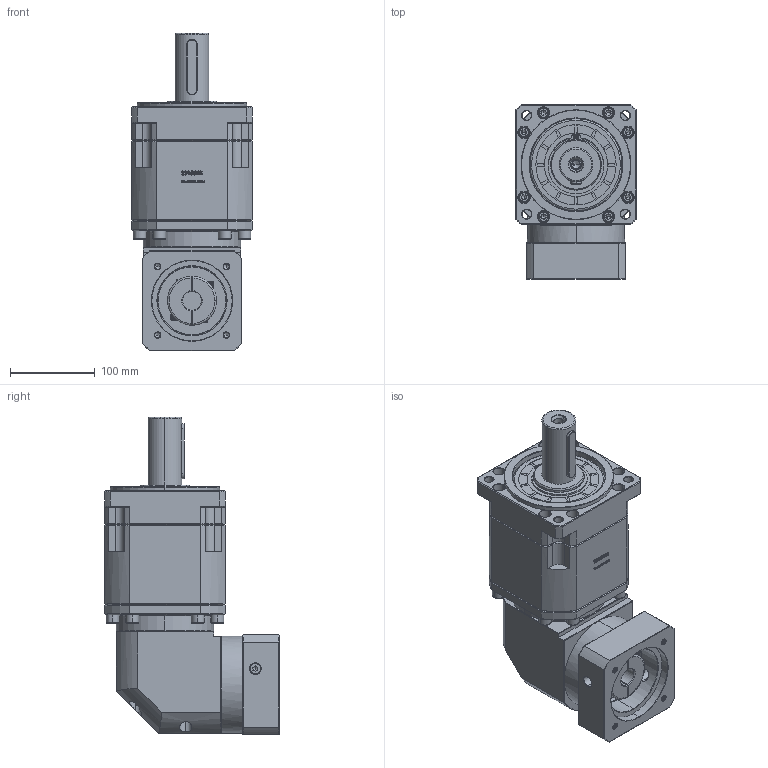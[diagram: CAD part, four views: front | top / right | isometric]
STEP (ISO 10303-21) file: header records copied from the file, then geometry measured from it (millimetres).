
FILE_DESCRIPTION (( 'STEP AP214' ), '1' );
FILE_NAME ('ZBR142A-D40-L3-22-95-115-M8.step', '2023-03-20T04:13:20', ( '' ), ( '' ), 'SwSTEP 2.0', 'SolidWorks 2016', '' );
FILE_SCHEMA (( 'AUTOMOTIVE_DESIGN' ));
Length unit declared in the file: millimetre
Products named in the file (1): ZBR142A-D40-L3-22-95-115-M8
Bounding box: 142 x 205.9 x 375.2 mm (x, y, z)
Volume: 5144584 mm3; surface area: 337478.3 mm2
Topology: 6 solids, 6 shells, 3192 faces, 8411 edges, 5387 vertices
Faces by surface type: plane 1652, bspline 593, cylinder 502, cone 399, torus 46
Entity records: 170764 total; most frequent: CARTESIAN_POINT 61469, ORIENTED_EDGE 16714, DIRECTION 13080, EDGE_CURVE 8357, LINE 5590, VECTOR 5590, VERTEX_POINT 5387, AXIS2_PLACEMENT_3D 3745
